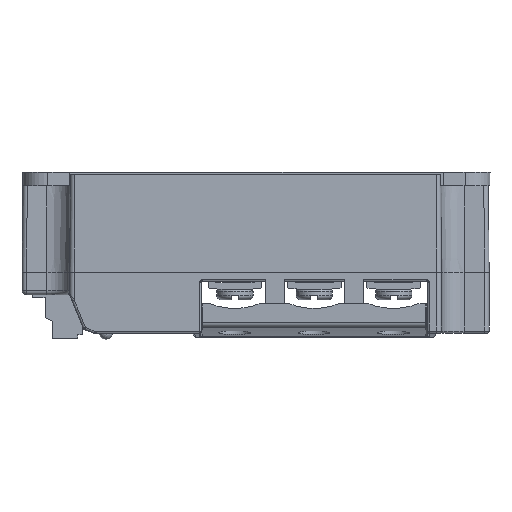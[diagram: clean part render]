
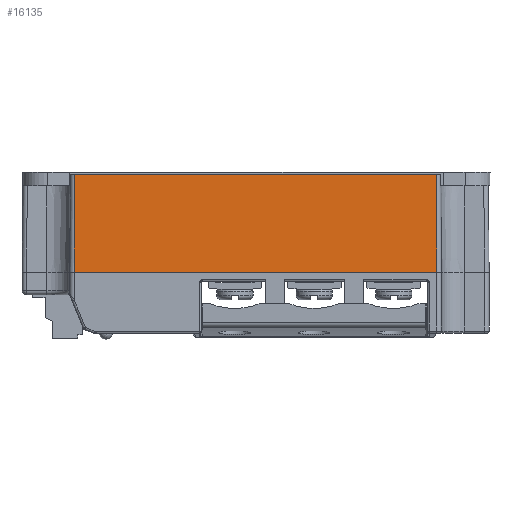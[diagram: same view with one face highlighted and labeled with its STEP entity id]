
A CAD part, front view. The second image highlights one B-rep face of the part: STEP entity #16135.
In plain terms, the highlighted planar face has unit normal (0, -1, 0.009).
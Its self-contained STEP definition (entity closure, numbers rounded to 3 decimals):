
#2287=ORIENTED_EDGE('',*,*,#6307,.T.);
#2288=ORIENTED_EDGE('',*,*,#6220,.T.);
#2289=ORIENTED_EDGE('',*,*,#6237,.F.);
#2290=ORIENTED_EDGE('',*,*,#6226,.T.);
#6220=EDGE_CURVE('',#8558,#8556,#10259,.T.);
#6226=EDGE_CURVE('',#8561,#8563,#10262,.T.);
#6237=EDGE_CURVE('',#8561,#8556,#10271,.T.);
#6307=EDGE_CURVE('',#8563,#8558,#10323,.T.);
#8556=VERTEX_POINT('',#25429);
#8558=VERTEX_POINT('',#25432);
#8561=VERTEX_POINT('',#25445);
#8563=VERTEX_POINT('',#25452);
#10259=LINE('',#25431,#12049);
#10262=LINE('',#25453,#12052);
#10271=LINE('',#25477,#12061);
#10323=LINE('',#25649,#12113);
#12049=VECTOR('',#19503,1000.);
#12052=VECTOR('',#19508,1000.);
#12061=VECTOR('',#19527,1000.);
#12113=VECTOR('',#19631,1000.);
#13721=EDGE_LOOP('',(#2287,#2288,#2289,#2290));
#14672=FACE_BOUND('',#13721,.T.);
#15454=PLANE('',#17431);
#16135=ADVANCED_FACE('',(#14672),#15454,.T.);
#17431=AXIS2_PLACEMENT_3D('',#25648,#19629,#19630);
#19503=DIRECTION('',(-0.009,0.009,1.));
#19508=DIRECTION('',(-0.009,-0.009,-1.));
#19527=DIRECTION('',(1.,0.,0.));
#19629=DIRECTION('',(0.,-1.,0.009));
#19630=DIRECTION('',(-1.,0.,0.));
#19631=DIRECTION('',(1.,0.,0.));
#25429=CARTESIAN_POINT('',(32.892,63.378,10.75));
#25431=CARTESIAN_POINT('',(33.073,63.196,-10.043));
#25432=CARTESIAN_POINT('',(33.079,63.19,-10.75));
#25445=CARTESIAN_POINT('',(-46.733,63.378,10.75));
#25452=CARTESIAN_POINT('',(-46.921,63.19,-10.75));
#25453=CARTESIAN_POINT('',(-46.921,63.19,-10.759));
#25477=CARTESIAN_POINT('',(-52.921,63.378,10.75));
#25648=CARTESIAN_POINT('',(-47.921,63.19,-10.75));
#25649=CARTESIAN_POINT('',(-47.921,63.19,-10.75));
